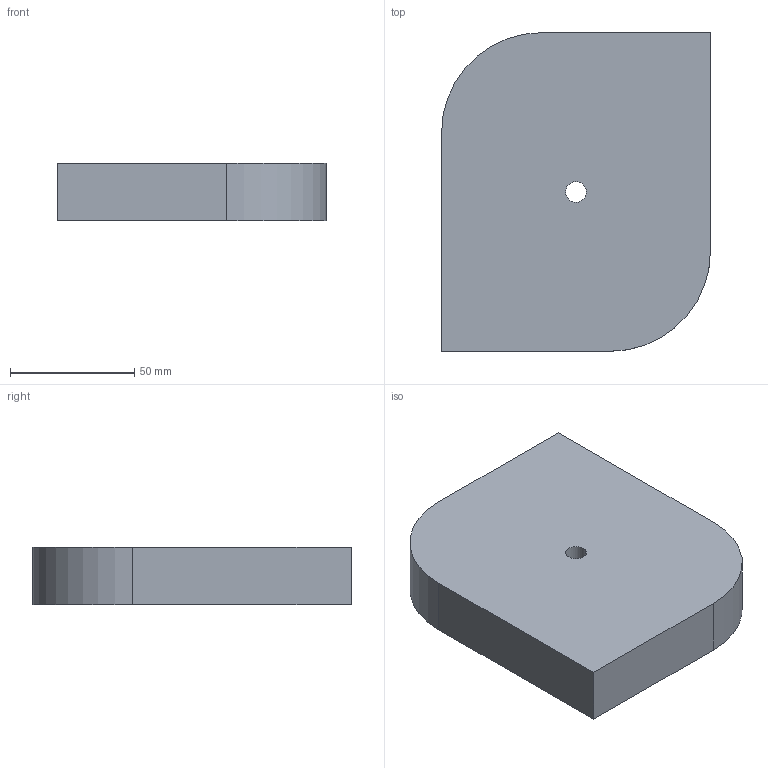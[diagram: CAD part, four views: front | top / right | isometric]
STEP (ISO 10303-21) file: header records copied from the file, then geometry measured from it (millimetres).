
FILE_DESCRIPTION(('CATIA V5 STEP Exchange'),'2;1');
FILE_NAME('C:\_Andres\UNIVERSIDAD\IQS\ASIGNATURAS\DAO\EXF\EXF-15161c\1original\Perelló_Ibarra_Ej01-plano_v18.stp','2016-03-04T14:59:46+00:00',('none'),('none'),'CATIA Version 5 Release 20 SP 1 (IN-10)','CATIA V5 STEP AP203','none');
FILE_SCHEMA(('CONFIG_CONTROL_DESIGN'));
Length unit declared in the file: millimetre
Products named in the file (1): Perelló_Ibarra_Ej01-plano_v18
Bounding box: 108 x 128 x 23 mm (x, y, z)
Volume: 300890 mm3; surface area: 36835.8 mm2
Topology: 1 solids, 1 shells, 10 faces, 24 edges, 16 vertices
Faces by surface type: plane 6, cylinder 4
Entity records: 333 total; most frequent: CARTESIAN_POINT 51, ORIENTED_EDGE 48, DIRECTION 44, EDGE_CURVE 24, AXIS2_PLACEMENT_3D 19, VECTOR 16, LINE 16, VERTEX_POINT 16
